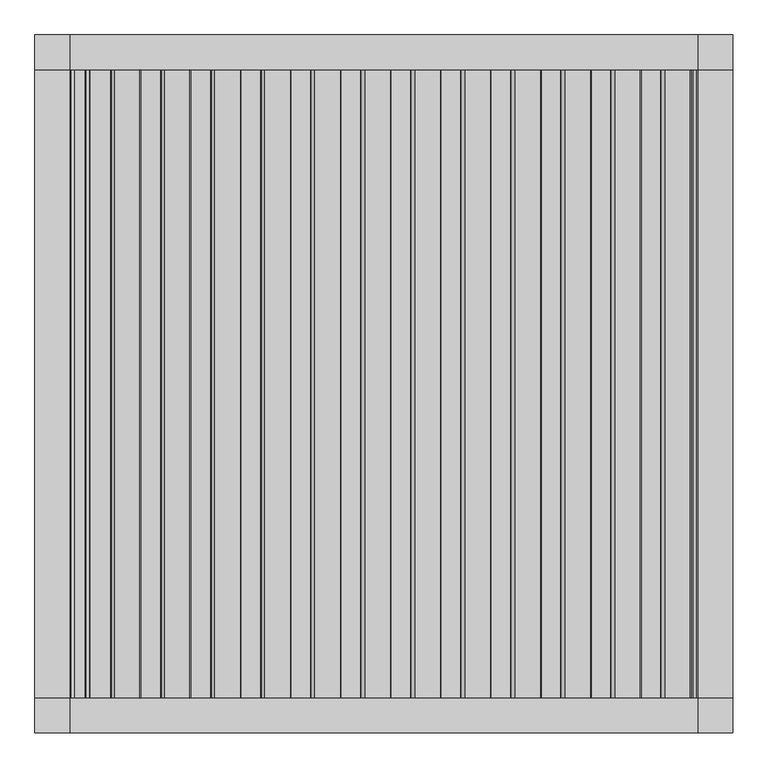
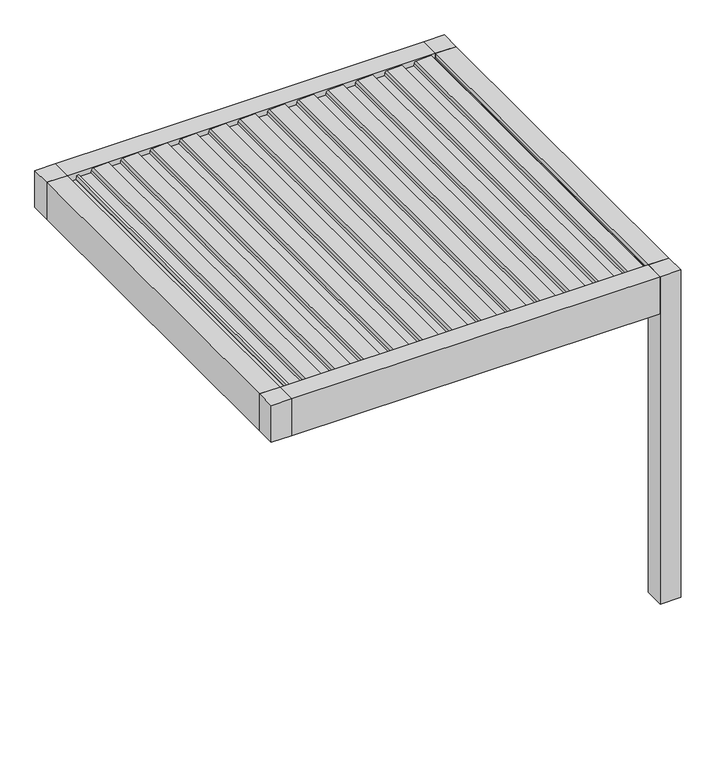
"""IFC4 building model written with IfcOpenShell, lengths in millimetres: proxy geometry, Renson_Amani_Patio_Cover : Renson_Amani_Patio_Cover."""

import ifcopenshell
import ifcopenshell.guid

model = None  # the IFC model being written
_history = None  # IfcOwnerHistory: only IFC2X3 demands one
_inside = {}  # id of a spatial element -> (the spatial element, [elements in it])
_under = {}  # id of a project, library or spatial element -> (it, [spatial elements below it])
_declared = {}  # id of a project -> (the project, [libraries it declares])
_typed = {}  # id of a type object -> (the type object, [elements of that type])
_made_of = {}  # id of a material, layer set ... -> (it, [elements and type objects made of it])


def new_model(schema):
    """Start an empty IFC model of exactly this schema.

    Asked for "IFC4X3", IfcOpenShell would pick the latest addendum, in which some entities
    have other attributes; the version numbers below select the first issue.
    IFC2X3 requires an IfcOwnerHistory on every rooted entity: one is made here for all.
    """
    global model, _history
    if schema == "IFC4X3":
        model = ifcopenshell.file(schema_version=(4, 3, 0, 0))
    else:
        model = ifcopenshell.file(schema=schema)
    _inside.clear()
    _under.clear()
    _declared.clear()
    _typed.clear()
    _made_of.clear()
    _history = None
    if model.schema == "IFC2X3":
        org = make("IfcOrganization", Name="unknown")
        user = make(
            "IfcPersonAndOrganization",
            ThePerson=make("IfcPerson", FamilyName="unknown"),
            TheOrganization=org,
        )
        app = make(
            "IfcApplication",
            ApplicationDeveloper=org,
            Version="unknown",
            ApplicationFullName="unknown",
            ApplicationIdentifier="unknown",
        )
        _history = make(
            "IfcOwnerHistory",
            OwningUser=user,
            OwningApplication=app,
            ChangeAction="ADDED",
            CreationDate=0,
        )
    return model


def make(cls, **values):
    """One entity of the class cls with the attributes given. An attribute that is None is left unset."""
    return model.create_entity(
        cls, **{name: value for name, value in values.items() if value is not None}
    )


def rooted(cls, **values):
    """An entity with a GlobalId (a new one), such as an element, a storey or a relation."""
    return make(cls, GlobalId=ifcopenshell.guid.new(), OwnerHistory=_history, **values)


def si_unit(unit_type, name, prefix=None):
    """IfcSIUnit, for example si_unit("LENGTHUNIT", "METRE", prefix="MILLI")."""
    return make("IfcSIUnit", UnitType=unit_type, Prefix=prefix, Name=name)


def assignment(units):
    """IfcUnitAssignment: the units of a project."""
    return None if units is None else make("IfcUnitAssignment", Units=units)


def point(xyz):
    """IfcCartesianPoint."""
    return None if xyz is None else make("IfcCartesianPoint", Coordinates=xyz)


def direction(xyz):
    """IfcDirection."""
    return None if xyz is None else make("IfcDirection", DirectionRatios=xyz)


def frame(location, z_axis=None, x_axis=None):
    """IfcAxis2Placement3D, a coordinate frame: its origin and axes. An axis left out is left unset."""
    return make(
        "IfcAxis2Placement3D",
        Location=point(location),
        Axis=direction(z_axis),
        RefDirection=direction(x_axis),
    )


def frame_2d(location, x_axis=None):
    """IfcAxis2Placement2D, a coordinate frame in the plane: its origin and x axis."""
    return make(
        "IfcAxis2Placement2D", Location=point(location), RefDirection=direction(x_axis)
    )


def origin():
    """The frame at (0, 0, 0) with its axes left unset."""
    return frame((0.0, 0.0, 0.0))


def origin_with_axes():
    """The frame at (0, 0, 0) with the z axis (0, 0, 1) and the x axis (1, 0, 0) written out."""
    return frame((0.0, 0.0, 0.0), z_axis=(0.0, 0.0, 1.0), x_axis=(1.0, 0.0, 0.0))


def place(relative_to, where):
    """IfcLocalPlacement: puts the frame where relative to a parent placement (None: the world)."""
    return make(
        "IfcLocalPlacement", PlacementRelTo=relative_to, RelativePlacement=where
    )


def context(
    kind, dimensions, precision=None, world=None, true_north=None, identifier=None
):
    """IfcGeometricRepresentationContext, for example the 3D "Model" context."""
    return make(
        "IfcGeometricRepresentationContext",
        ContextIdentifier=identifier,
        ContextType=kind,
        CoordinateSpaceDimension=dimensions,
        Precision=precision,
        WorldCoordinateSystem=world,
        TrueNorth=true_north,
    )


def project(units=None, contexts=None):
    """IfcProject with its units and contexts."""
    return rooted(
        "IfcProject",
        Name="project",
        RepresentationContexts=contexts,
        UnitsInContext=assignment(units),
    )


def spatial(cls, under=None, at=None, **own):
    """A site, building, storey or space (cls), placed at a placement, below another one or the project."""
    s = rooted(cls, ObjectPlacement=at, **own)
    if under is not None:
        _under.setdefault(under.id(), (under, []))[1].append(s)
    return s


def polyline(points):
    """IfcPolyline through the points."""
    return make("IfcPolyline", Points=[point(p) for p in points])


def circle_curve(where, radius):
    """IfcCircle in the frame where."""
    return make("IfcCircle", Position=where, Radius=radius)


def trimmed(basis, trim1, trim2, sense, master):
    """IfcTrimmedCurve: the piece of a basis curve between two trims."""
    return make(
        "IfcTrimmedCurve",
        BasisCurve=basis,
        Trim1=trim1,
        Trim2=trim2,
        SenseAgreement=sense,
        MasterRepresentation=master,
    )


def segment(curve, same_sense, transition):
    """IfcCompositeCurveSegment."""
    return make(
        "IfcCompositeCurveSegment",
        Transition=transition,
        SameSense=same_sense,
        ParentCurve=curve,
    )


def composite_curve(segments, self_intersect=None):
    """IfcCompositeCurve: segments joined end to end."""
    return make("IfcCompositeCurve", Segments=segments, SelfIntersect=self_intersect)


def outline(outer, holes=None, kind="AREA"):
    """IfcArbitraryClosedProfileDef: a profile drawn as a closed curve; with holes, ...WithVoids."""
    if holes is None:
        return make("IfcArbitraryClosedProfileDef", ProfileType=kind, OuterCurve=outer)
    return make(
        "IfcArbitraryProfileDefWithVoids",
        ProfileType=kind,
        OuterCurve=outer,
        InnerCurves=holes,
    )


def extrude(swept, where, along, depth):
    """IfcExtrudedAreaSolid: the profile swept, set in the frame where, extruded along a direction by depth."""
    return make(
        "IfcExtrudedAreaSolid",
        SweptArea=swept,
        Position=where,
        ExtrudedDirection=direction(along),
        Depth=depth,
    )


def shape(context_of_items, identifier, shape_type, items):
    """IfcShapeRepresentation: the items that make up one representation, for example the "Body"."""
    return make(
        "IfcShapeRepresentation",
        ContextOfItems=context_of_items,
        RepresentationIdentifier=identifier,
        RepresentationType=shape_type,
        Items=items,
    )


def source(mapping_origin, context_of_items, identifier, shape_type, items):
    """IfcRepresentationMap: a shape defined once, which mapped items show again and again."""
    return make(
        "IfcRepresentationMap",
        MappingOrigin=mapping_origin,
        MappedRepresentation=shape(context_of_items, identifier, shape_type, items),
    )


def transform(
    local_origin,
    x_axis=None,
    y_axis=None,
    z_axis=None,
    scale=None,
    scale2=None,
    scale3=None,
    uniform=True,
):
    """IfcCartesianTransformationOperator3D, or its non-uniform kind. x_axis, y_axis, z_axis: its Axis1, 2, 3."""
    if uniform:
        return make(
            "IfcCartesianTransformationOperator3D",
            Axis1=direction(x_axis),
            Axis2=direction(y_axis),
            LocalOrigin=point(local_origin),
            Scale=scale,
            Axis3=direction(z_axis),
        )
    return make(
        "IfcCartesianTransformationOperator3DnonUniform",
        Axis1=direction(x_axis),
        Axis2=direction(y_axis),
        LocalOrigin=point(local_origin),
        Scale=scale,
        Axis3=direction(z_axis),
        Scale2=scale2,
        Scale3=scale3,
    )


def mapped(mapping_source, mapping_target):
    """IfcMappedItem: shows the shape of a source again, moved by a transform."""
    return make(
        "IfcMappedItem", MappingSource=mapping_source, MappingTarget=mapping_target
    )


def made_of(thing, what):
    """Note that an element or type object is made of a material, layer set ...; save() writes the relation."""
    if what is not None:
        _made_of.setdefault(what.id(), (what, []))[1].append(thing)
    return thing


def element(
    cls,
    number,
    at=None,
    inside=None,
    cuts=None,
    type_object=None,
    material=None,
    context=None,
    identifier="Body",
    shape_type=None,
    held_by="IfcProductDefinitionShape",
    body=None,
    shapes=None,
    **own,
):
    """One element of the class cls, such as IfcWall. Its Tag is "e" and its number.

    at: its placement. inside: the storey or other place that contains it. cuts: it is an
    opening in that element (IfcRelVoidsElement). A single representation is given by context,
    identifier, shape_type and body (its items); several are given by shapes. held_by: the class
    of the entity that holds the representations. save() writes the other relations.
    """
    e = rooted(cls, Tag="e%d" % number, ObjectPlacement=at, **own)
    if body is not None:
        shapes = [shape(context, identifier, shape_type, body)]
    if shapes is not None:
        e.Representation = make(held_by, Representations=shapes)
    if inside is not None:
        _inside.setdefault(inside.id(), (inside, []))[1].append(e)
    if cuts is not None:
        rooted(
            "IfcRelVoidsElement", RelatingBuildingElement=cuts, RelatedOpeningElement=e
        )
    if type_object is not None:
        _typed.setdefault(type_object.id(), (type_object, []))[1].append(e)
    return made_of(e, material)


def aggregate(whole, parts):
    """IfcRelAggregates: a whole, such as a stair, and the parts it consists of."""
    return rooted("IfcRelAggregates", RelatingObject=whole, RelatedObjects=parts)


def save(model, path):
    """Write the relations noted so far, then the file.

    IfcRelAggregates (storeys below a building ...), IfcRelContainedInSpatialStructure (elements
    in a storey), IfcRelDefinesByType, IfcRelAssociatesMaterial and IfcRelDeclares: one each for
    every whole, place, type object, material and project.
    """
    for whole, parts in _under.values():
        aggregate(whole, parts)
    for where, things in _inside.values():
        rooted(
            "IfcRelContainedInSpatialStructure",
            RelatedElements=things,
            RelatingStructure=where,
        )
    for kind, things in _typed.values():
        rooted("IfcRelDefinesByType", RelatedObjects=things, RelatingType=kind)
    for what, things in _made_of.values():
        rooted("IfcRelAssociatesMaterial", RelatedObjects=things, RelatingMaterial=what)
    for by, libraries in _declared.values():
        rooted("IfcRelDeclares", RelatingContext=by, RelatedDefinitions=libraries)
    model.write(path)


def generic_models_b0ea3fea(model_context):
    return source(origin(), model_context, "Body", "SweptSolid", [
        extrude(outline(composite_curve([segment(polyline([(2483.35, 1073.7289238), (2511.01198, 1076.1490335), (2512.3970364, 1104.984284), (2531.8911096, 1101.5469529), (2526.6075693, 991.549838)]), True, "CONTINUOUS"), segment(trimmed(circle_curve(frame_2d((2511.6248435, 992.26951)), 15.0), [point((2526.6075693, 991.549838))], [point((2514.2295662, 977.4973937))], False, "CARTESIAN"), True, "CONTINUOUS"), segment(polyline([(2514.2295662, 977.4973937), (2495.0, 974.1067023), (2495.0, 886.3709263), (2512.0788237, 883.3594689), (2511.3450182, 868.0824984), (2483.35, 865.6332517), (2483.35, 1073.7289238)]), True, "CONTINUOUS")], self_intersect=False)), frame((0.0, -1350.0, 0.0), z_axis=(0.0, 1.0, 0.0), x_axis=(0.0, 0.0, 1.0)), (0.0, 0.0, 1.0), 2700.0),
        extrude(outline(composite_curve([segment(polyline([(2483.35, 858.7132078), (2511.01198, 861.1333174), (2512.3970364, 889.9685679), (2531.8911096, 886.5312368), (2526.6075693, 776.534122)]), True, "CONTINUOUS"), segment(trimmed(circle_curve(frame_2d((2511.6248435, 777.2537939)), 15.0), [point((2526.6075693, 776.534122))], [point((2514.2295662, 762.4816776))], False, "CARTESIAN"), True, "CONTINUOUS"), segment(polyline([(2514.2295662, 762.4816776), (2495.0, 759.0909863), (2495.0, 671.3552102), (2512.0788237, 668.3437528), (2511.3450182, 653.0667824), (2483.35, 650.6175356), (2483.35, 858.7132078)]), True, "CONTINUOUS")], self_intersect=False)), frame((0.0, -1350.0, 0.0), z_axis=(0.0, 1.0, 0.0), x_axis=(0.0, 0.0, 1.0)), (0.0, 0.0, 1.0), 2700.0),
        extrude(outline(composite_curve([segment(polyline([(2483.35, 643.6974917), (2511.01198, 646.1176014), (2512.3970364, 674.9528519), (2531.8911096, 671.5155208), (2526.6075693, 561.5184059)]), True, "CONTINUOUS"), segment(trimmed(circle_curve(frame_2d((2511.6248435, 562.2380779)), 15.0), [point((2526.6075693, 561.5184059))], [point((2514.2295662, 547.4659616))], False, "CARTESIAN"), True, "CONTINUOUS"), segment(polyline([(2514.2295662, 547.4659616), (2495.0, 544.0752702), (2495.0, 456.3394942), (2512.0788237, 453.3280368), (2511.3450182, 438.0510663), (2483.35, 435.6018196), (2483.35, 643.6974917)]), True, "CONTINUOUS")], self_intersect=False)), frame((0.0, -1350.0, 0.0), z_axis=(0.0, 1.0, 0.0), x_axis=(0.0, 0.0, 1.0)), (0.0, 0.0, 1.0), 2700.0),
        extrude(outline(composite_curve([segment(polyline([(2483.35, 428.6817757), (2511.01198, 431.1018854), (2512.3970364, 459.9371358), (2531.8911096, 456.4998047), (2526.6075693, 346.5026899)]), True, "CONTINUOUS"), segment(trimmed(circle_curve(frame_2d((2511.6248435, 347.2223618)), 15.0), [point((2526.6075693, 346.5026899))], [point((2514.2295662, 332.4502455))], False, "CARTESIAN"), True, "CONTINUOUS"), segment(polyline([(2514.2295662, 332.4502455), (2495.0, 329.0595542), (2495.0, 241.3237782), (2512.0788237, 238.3123207), (2511.3450182, 223.0353503), (2483.35, 220.5861035), (2483.35, 428.6817757)]), True, "CONTINUOUS")], self_intersect=False)), frame((0.0, -1350.0, 0.0), z_axis=(0.0, 1.0, 0.0), x_axis=(0.0, 0.0, 1.0)), (0.0, 0.0, 1.0), 2700.0),
        extrude(outline(composite_curve([segment(polyline([(2483.35, 213.6660597), (2511.01198, 216.0861693), (2512.3970364, 244.9214198), (2531.8911096, 241.4840887), (2526.6075693, 131.4869738)]), True, "CONTINUOUS"), segment(trimmed(circle_curve(frame_2d((2511.6248435, 132.2066458)), 15.0), [point((2526.6075693, 131.4869738))], [point((2514.2295662, 117.4345295))], False, "CARTESIAN"), True, "CONTINUOUS"), segment(polyline([(2514.2295662, 117.4345295), (2495.0, 114.0438381), (2495.0, 26.3080621), (2512.0788237, 23.2966047), (2511.3450182, 8.0196342), (2483.35, 5.5703875), (2483.35, 213.6660597)]), True, "CONTINUOUS")], self_intersect=False)), frame((0.0, -1350.0, 0.0), z_axis=(0.0, 1.0, 0.0), x_axis=(0.0, 0.0, 1.0)), (0.0, 0.0, 1.0), 2700.0),
        extrude(outline(composite_curve([segment(polyline([(2483.35, -1.3496564), (2511.01198, 1.0704533), (2512.3970364, 29.9057037), (2531.8911096, 26.4683726), (2526.6075693, -83.5287422)]), True, "CONTINUOUS"), segment(trimmed(circle_curve(frame_2d((2511.6248435, -82.8090703)), 15.0), [point((2526.6075693, -83.5287422))], [point((2514.2295662, -97.5811866))], False, "CARTESIAN"), True, "CONTINUOUS"), segment(polyline([(2514.2295662, -97.5811866), (2495.0, -100.9718779), (2495.0, -188.7076539), (2512.0788237, -191.7191114), (2511.3450182, -206.9960818), (2483.35, -209.4453286), (2483.35, -1.3496564)]), True, "CONTINUOUS")], self_intersect=False)), frame((0.0, -1350.0, 0.0), z_axis=(0.0, 1.0, 0.0), x_axis=(0.0, 0.0, 1.0)), (0.0, 0.0, 1.0), 2700.0),
        extrude(outline(composite_curve([segment(polyline([(2483.35, -216.3653724), (2511.01198, -213.9452628), (2512.3970364, -185.1100123), (2531.8911096, -188.5473434), (2526.6075693, -298.5444582)]), True, "CONTINUOUS"), segment(trimmed(circle_curve(frame_2d((2511.6248435, -297.8247863)), 15.0), [point((2526.6075693, -298.5444582))], [point((2514.2295662, -312.5969026))], False, "CARTESIAN"), True, "CONTINUOUS"), segment(polyline([(2514.2295662, -312.5969026), (2495.0, -315.987594), (2495.0, -403.72337), (2512.0788237, -406.7348274), (2511.3450182, -422.0117979), (2483.35, -424.4610446), (2483.35, -216.3653724)]), True, "CONTINUOUS")], self_intersect=False)), frame((0.0, -1350.0, 0.0), z_axis=(0.0, 1.0, 0.0), x_axis=(0.0, 0.0, 1.0)), (0.0, 0.0, 1.0), 2700.0),
        extrude(outline(composite_curve([segment(polyline([(2483.35, -431.3810885), (2511.01198, -428.9609788), (2512.3970364, -400.1257284), (2531.8911096, -403.5630594), (2526.6075693, -513.5601743)]), True, "CONTINUOUS"), segment(trimmed(circle_curve(frame_2d((2511.6248435, -512.8405024)), 15.0), [point((2526.6075693, -513.5601743))], [point((2514.2295662, -527.6126187))], False, "CARTESIAN"), True, "CONTINUOUS"), segment(polyline([(2514.2295662, -527.6126187), (2495.0, -531.00331), (2495.0, -618.739086), (2512.0788237, -621.7505434), (2511.3450182, -637.0275139), (2483.35, -639.4767606), (2483.35, -431.3810885)]), True, "CONTINUOUS")], self_intersect=False)), frame((0.0, -1350.0, 0.0), z_axis=(0.0, 1.0, 0.0), x_axis=(0.0, 0.0, 1.0)), (0.0, 0.0, 1.0), 2700.0),
        extrude(outline(composite_curve([segment(polyline([(2483.35, -646.3968045), (2511.01198, -643.9766949), (2512.3970364, -615.1414444), (2531.8911096, -618.5787755), (2526.6075693, -728.5758903)]), True, "CONTINUOUS"), segment(trimmed(circle_curve(frame_2d((2511.6248435, -727.8562184)), 15.0), [point((2526.6075693, -728.5758903))], [point((2514.2295662, -742.6283347))], False, "CARTESIAN"), True, "CONTINUOUS"), segment(polyline([(2514.2295662, -742.6283347), (2495.0, -746.019026), (2495.0, -833.7548021), (2512.0788237, -836.7662595), (2511.3450182, -852.04323), (2483.35, -854.4924767), (2483.35, -646.3968045)]), True, "CONTINUOUS")], self_intersect=False)), frame((0.0, -1350.0, 0.0), z_axis=(0.0, 1.0, 0.0), x_axis=(0.0, 0.0, 1.0)), (0.0, 0.0, 1.0), 2700.0),
        extrude(outline(composite_curve([segment(polyline([(2483.35, -861.4125206), (2511.01198, -858.9924109), (2512.3970364, -830.1571605), (2531.8911096, -833.5944915), (2526.6075693, -943.5916064)]), True, "CONTINUOUS"), segment(trimmed(circle_curve(frame_2d((2511.6248435, -942.8719345)), 15.0), [point((2526.6075693, -943.5916064))], [point((2514.2295662, -957.6440508))], False, "CARTESIAN"), True, "CONTINUOUS"), segment(polyline([(2514.2295662, -957.6440508), (2495.0, -961.0347421), (2495.0, -1048.7705181), (2512.0788237, -1051.7819755), (2511.3450182, -1067.058946), (2483.35, -1069.5081927), (2483.35, -861.4125206)]), True, "CONTINUOUS")], self_intersect=False)), frame((0.0, -1350.0, 0.0), z_axis=(0.0, 1.0, 0.0), x_axis=(0.0, 0.0, 1.0)), (0.0, 0.0, 1.0), 2700.0),
        extrude(outline(composite_curve([segment(polyline([(2483.35, 1288.7446399), (2511.01198, 1291.1647495), (2512.3970364, 1320.0), (2531.8911096, 1316.5626689), (2526.6075693, 1206.5655541)]), True, "CONTINUOUS"), segment(trimmed(circle_curve(frame_2d((2511.6248435, 1207.285226)), 15.0), [point((2526.6075693, 1206.5655541))], [point((2514.2295662, 1192.5131097))], False, "CARTESIAN"), True, "CONTINUOUS"), segment(polyline([(2514.2295662, 1192.5131097), (2495.0, 1189.1224184), (2495.0, 1101.3866423), (2512.0788237, 1098.3751849), (2511.3450182, 1083.0982144), (2483.35, 1080.6489677), (2483.35, 1288.7446399)]), True, "CONTINUOUS")], self_intersect=False)), frame((0.0, -1350.0, 0.0), z_axis=(0.0, 1.0, 0.0), x_axis=(0.0, 0.0, 1.0)), (0.0, 0.0, 1.0), 2700.0),
        extrude(outline(composite_curve([segment(polyline([(2483.35, -1076.4282366), (2511.01198, -1074.008127), (2512.3970364, -1045.1728765), (2531.8911096, -1048.6102076), (2526.6075693, -1158.6073224)]), True, "CONTINUOUS"), segment(trimmed(circle_curve(frame_2d((2511.6248435, -1157.8876505)), 15.0), [point((2526.6075693, -1158.6073224))], [point((2514.2295662, -1172.6597668))], False, "CARTESIAN"), True, "CONTINUOUS"), segment(polyline([(2514.2295662, -1172.6597668), (2495.0, -1176.0504581), (2495.0, -1263.7862342), (2512.0788237, -1266.7976916), (2511.3450182, -1282.0746621), (2483.35, -1284.5239088), (2483.35, -1076.4282366)]), True, "CONTINUOUS")], self_intersect=False)), frame((0.0, -1350.0, 0.0), z_axis=(0.0, 1.0, 0.0), x_axis=(0.0, 0.0, 1.0)), (0.0, 0.0, 1.0), 2700.0),
        extrude(outline(polyline([(-1350.0, 1500.0), (-1350.0, 1350.0), (-1500.0, 1350.0), (-1500.0, 1500.0), (-1350.0, 1500.0)])), frame((0.0, 0.0, 2250.0), z_axis=(0.0, 0.0, 1.0), x_axis=(1.0, 0.0, 0.0)), (0.0, 0.0, 1.0), 285.0),
        extrude(outline(polyline([(-1350.0, -1500.0), (-1500.0, -1500.0), (-1500.0, -1350.0), (-1350.0, -1350.0), (-1350.0, -1500.0)])), frame((0.0, 0.0, 2250.0), z_axis=(0.0, 0.0, 1.0), x_axis=(1.0, 0.0, 0.0)), (0.0, 0.0, 1.0), 285.0),
        extrude(outline(polyline([(1500.0, -1350.0), (1500.0, -1500.0), (1350.0, -1500.0), (1350.0, -1350.0), (1500.0, -1350.0)])), origin_with_axes(), (0.0, 0.0, 1.0), 2535.0),
        extrude(outline(polyline([(1500.0, 1500.0), (1500.0, 1350.0), (1350.0, 1350.0), (1350.0, 1500.0), (1500.0, 1500.0)])), origin_with_axes(), (0.0, 0.0, 1.0), 2535.0),
        extrude(outline(polyline([(2466.6559373, -1350.0), (2466.6559373, -1290.0), (2480.6555802, -1286.2487113), (2480.6555802, -1329.5940945), (2496.400763, -1345.0), (2504.2449277, -1345.0), (2504.6823598, -1350.0), (2466.6559373, -1350.0)])), frame((0.0, -1350.0, 0.0), z_axis=(0.0, 1.0, 0.0), x_axis=(0.0, 0.0, 1.0)), (0.0, 0.0, 1.0), 2700.0),
        extrude(outline(polyline([(-1350.0, -1350.0), (-1500.0, -1350.0), (-1500.0, 1350.0), (-1350.0, 1350.0), (-1350.0, -1350.0)])), frame((0.0, 0.0, 2250.0), z_axis=(0.0, 0.0, 1.0), x_axis=(1.0, 0.0, 0.0)), (0.0, 0.0, 1.0), 285.0),
        extrude(outline(polyline([(2535.0, 1500.0), (2535.0, 1350.0), (2504.6904658, 1350.0), (2504.2449277, 1345.0), (2496.400763, 1345.0), (2480.6555802, 1329.2544156), (2480.6555802, 1319.9090324), (2466.6559373, 1323.6603211), (2466.6559373, 1350.0), (2250.0, 1350.0), (2250.0, 1500.0), (2535.0, 1500.0)])), frame((0.0, -1350.0, 0.0), z_axis=(0.0, 1.0, 0.0), x_axis=(0.0, 0.0, 1.0)), (0.0, 0.0, 1.0), 2700.0),
        extrude(outline(polyline([(-1350.0, 2535.0), (-1350.0, 2322.0), (-1280.0000001, 2322.0), (-1280.0000001, 2250.0), (-1500.0, 2250.0), (-1500.0, 2535.0), (-1350.0, 2535.0)])), frame((-1350.0, 0.0, 0.0), z_axis=(1.0, 0.0, 0.0), x_axis=(0.0, 1.0, 0.0)), (0.0, 0.0, 1.0), 2700.0),
        extrude(outline(polyline([(1500.0, 2250.0), (1280.0000001, 2250.0), (1280.0000001, 2322.0), (1350.0, 2322.0), (1350.0, 2535.0), (1500.0, 2535.0), (1500.0, 2250.0)])), frame((-1350.0, 0.0, 0.0), z_axis=(1.0, 0.0, 0.0), x_axis=(0.0, 1.0, 0.0)), (0.0, 0.0, 1.0), 2700.0),
    ])


if __name__ == "__main__":
    model = new_model("IFC4")
    model_context = context("Model", 3, world=origin())
    ifc_project = project(units=[si_unit("LENGTHUNIT", "METRE", prefix="MILLI")], contexts=[model_context])
    site = spatial("IfcSite", under=ifc_project)
    building = spatial("IfcBuilding", under=site)
    placement = place(None, origin())
    generic_models_shape = generic_models_b0ea3fea(model_context)
    element("IfcBuildingElementProxy", 1, Name="Renson_Amani_Patio_Cover : Renson_Amani_Patio_Cover", ObjectType="Renson_Amani_Patio_Cover : Renson_Amani_Patio_Cover", at=placement, inside=building, context=model_context, shape_type="MappedRepresentation", body=[
        mapped(generic_models_shape, transform((0.0, 0.0, 0.0), x_axis=(1.0, 0.0, 0.0), y_axis=(0.0, 1.0, 0.0), z_axis=(0.0, 0.0, 1.0))),
    ])
    save(model, "model.ifc")
